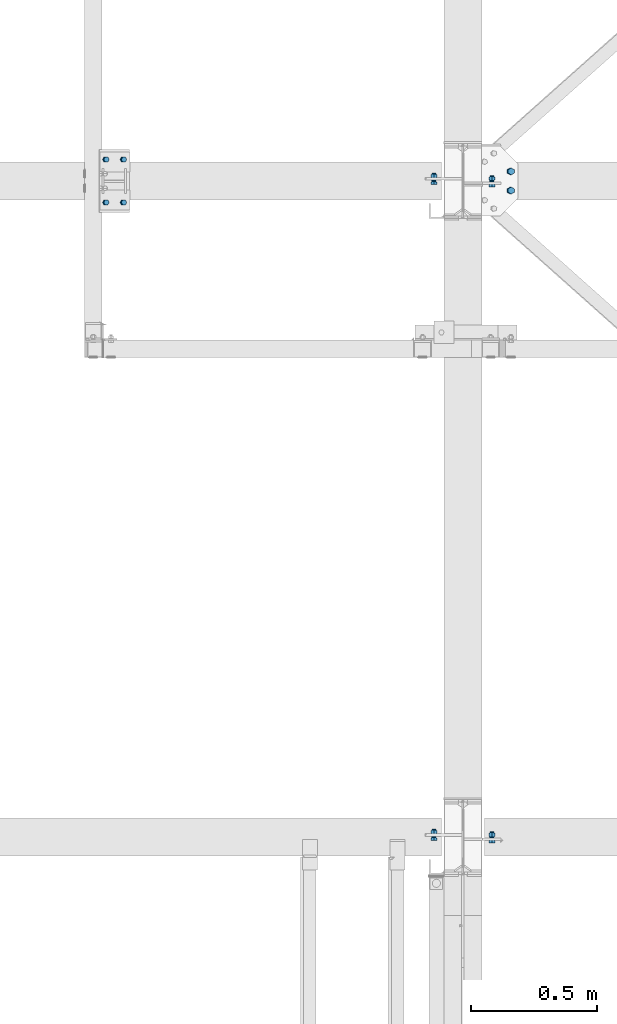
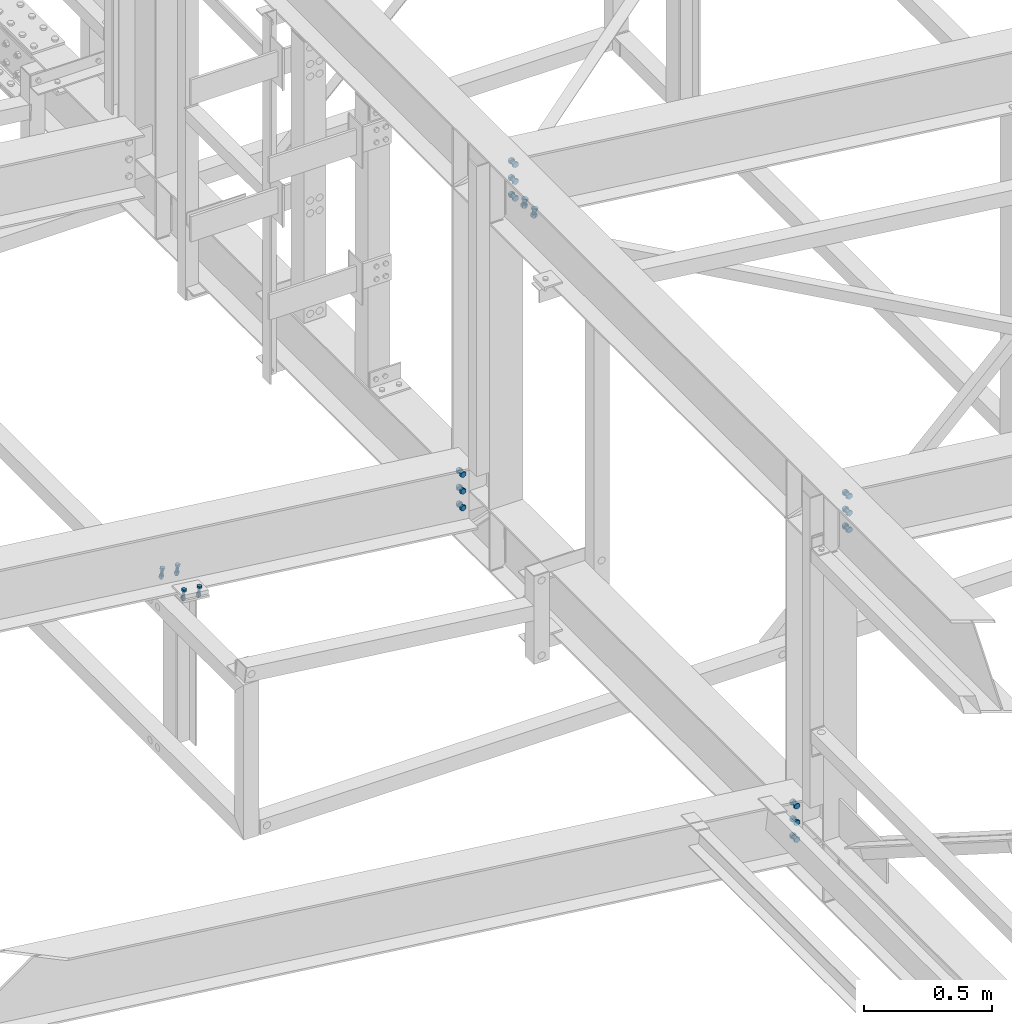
# One storey, part 155 of 3134: 7 mechanical fasteners, 5 elements without a shape of their own.
"""IFC2X3 building model written with IfcOpenShell, lengths in millimetres."""

from ifc_helpers import new_model, si_unit, frame, origin_with_axes, place, context, subcontext, project, spatial, faceted_brep, source, transform, mapped, material, type_object, element, aggregate, save


model = new_model("IFC2X3")

# Units and contexts
model_context = context("Model", 3, precision=1e-05, world=origin_with_axes())
body_context = subcontext(model_context, "Body", "Model", "MODEL_VIEW")
ifc_project = project(units=[si_unit("LENGTHUNIT", "METRE", prefix="MILLI"), si_unit("AREAUNIT", "SQUARE_METRE"), si_unit("VOLUMEUNIT", "CUBIC_METRE"), si_unit("MASSUNIT", "GRAM", prefix="KILO"), si_unit("TIMEUNIT", "SECOND"), si_unit("PLANEANGLEUNIT", "RADIAN"), si_unit("SOLIDANGLEUNIT", "STERADIAN"), si_unit("THERMODYNAMICTEMPERATUREUNIT", "DEGREE_CELSIUS"), si_unit("LUMINOUSINTENSITYUNIT", "LUMEN")], contexts=[model_context])

# Site, building, storey
site_placement = place(None, origin_with_axes())
site = spatial("IfcSite", under=ifc_project, at=site_placement, CompositionType="ELEMENT")
building_placement = place(site_placement, origin_with_axes())
building = spatial("IfcBuilding", under=site, at=building_placement, Name="Undefined", CompositionType="ELEMENT")
storey_placement = place(building_placement, origin_with_axes())
storey = spatial("IfcBuildingStorey", under=building, at=storey_placement, Name="Undefined", CompositionType="ELEMENT", Elevation=0.0)

# Assembly, mechanical fasteners
assembly_1_placement = place(storey_placement, origin_with_axes())
assembly_1 = element("IfcElementAssembly", 1, at=assembly_1_placement, inside=storey, Name="HEA100", AssemblyPlace="NOTDEFINED", PredefinedType="RIGID_FRAME")
ifc_material = material(Name="8.8")
mechanical_fastener_type = type_object("IfcMechanicalFastenerType", Name="Bolt assembly")
shared_shape_1 = source(origin_with_axes(), body_context, "Body", "Brep", [
    faceted_brep([(10.9696551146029, -36.0009821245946, 0.0), (5.48482755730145, -36.0009821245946, 9.5), (-5.48482755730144, -36.0009821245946, 9.5), (-10.9696551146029, -36.0009821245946, 1.34339530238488e-15), (-5.48482755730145, -36.0009821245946, -9.5), (5.48482755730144, -36.0009821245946, -9.50000000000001), (5.48482755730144, -28.0009821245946, -9.50000000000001), (-5.48482755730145, -28.0009821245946, -9.5), (-10.9696551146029, -28.0009821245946, 1.34339530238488e-15), (-5.48482755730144, -28.0009821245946, 9.5), (5.48482755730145, -28.0009821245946, 9.5), (10.9696551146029, -28.0009821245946, 0.0), (6.0, -28.0009821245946, 0.0), (5.19615242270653, -28.0009821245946, 3.00000000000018), (2.99999999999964, -28.0009821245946, 5.19615242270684), (-6.21801588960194e-13, -28.0009821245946, 6.0), (-3.00000000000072, -28.0009821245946, 5.19615242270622), (-5.19615242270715, -28.0009821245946, 2.9999999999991), (-6.0, -28.0009821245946, -1.24360317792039e-12), (-5.19615242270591, -28.0009821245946, -3.00000000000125), (-2.99999999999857, -28.0009821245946, -5.19615242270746), (1.85874342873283e-12, -28.0009821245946, -6.0), (3.00000000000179, -28.0009821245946, -5.1961524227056), (5.19615242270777, -28.0009821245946, -2.99999999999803), (5.19615242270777, 16.9990178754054, -2.99999999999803), (3.00000000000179, 16.9990178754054, -5.1961524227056), (1.85874342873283e-12, 16.9990178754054, -6.0), (-2.99999999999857, 16.9990178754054, -5.19615242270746), (-5.19615242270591, 16.9990178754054, -3.00000000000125), (-6.0, 16.9990178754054, -1.24360317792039e-12), (-5.19615242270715, 16.9990178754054, 2.9999999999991), (-3.00000000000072, 16.9990178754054, 5.19615242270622), (-6.21801588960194e-13, 16.9990178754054, 6.0), (2.99999999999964, 16.9990178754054, 5.19615242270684), (5.19615242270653, 16.9990178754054, 3.00000000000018), (6.0, 16.9990178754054, 0.0), (10.9696551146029, -0.000982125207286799, 0.0), (5.48482755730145, -0.000982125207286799, 9.5), (-5.48482755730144, -0.000982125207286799, 9.5), (-10.9696551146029, -0.000982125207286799, 1.34339530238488e-15), (-5.48482755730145, -0.000982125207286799, -9.5), (5.48482755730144, -0.000982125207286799, -9.50000000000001), (5.48482755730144, 9.99901787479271, -9.50000000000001), (-5.48482755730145, 9.99901787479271, -9.5), (-10.9696551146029, 9.99901787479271, 1.34339530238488e-15), (-5.48482755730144, 9.99901787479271, 9.5), (5.48482755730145, 9.99901787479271, 9.5), (10.9696551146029, 9.99901787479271, 0.0)], [[[0, 1, 2, 3, 4, 5]], [[6, 7, 8, 9, 10, 11]], [[0, 11, 10, 1]], [[1, 10, 9, 2]], [[2, 9, 8, 3]], [[3, 8, 7, 4]], [[4, 7, 6, 5]], [[5, 6, 11, 0]], [[12, 13, 14, 15, 16, 17, 18, 19, 20, 21, 22, 23]], [[24, 25, 26, 27, 28, 29, 30, 31, 32, 33, 34, 35]], [[12, 35, 34, 13]], [[13, 34, 33, 14]], [[14, 33, 32, 15]], [[15, 32, 31, 16]], [[16, 31, 30, 17]], [[17, 30, 29, 18]], [[18, 29, 28, 19]], [[19, 28, 27, 20]], [[20, 27, 26, 21]], [[21, 26, 25, 22]], [[22, 25, 24, 23]], [[23, 24, 35, 12]], [[36, 37, 38, 39, 40, 41]], [[42, 43, 44, 45, 46, 47]], [[36, 47, 46, 37]], [[37, 46, 45, 38]], [[38, 45, 44, 39]], [[39, 44, 43, 40]], [[40, 43, 42, 41]], [[41, 42, 47, 36]]]),
    faceted_brep([(7.0, -27.9009821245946, 0.0), (6.06217782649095, -27.9009821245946, 3.50000000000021), (3.49999999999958, -27.9009821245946, 6.06217782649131), (-7.25435187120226e-13, -27.9009821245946, 7.0), (-3.50000000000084, -27.9009821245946, 6.06217782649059), (-6.06217782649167, -27.9009821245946, 3.49999999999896), (-7.0, -27.9009821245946, -1.45087037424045e-12), (-6.06217782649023, -27.9009821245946, -3.50000000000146), (-3.49999999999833, -27.9009821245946, -6.06217782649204), (2.1685340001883e-12, -27.9009821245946, -7.0), (3.50000000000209, -27.9009821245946, -6.06217782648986), (6.0621778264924, -27.9009821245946, -3.4999999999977), (6.0621778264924, -19.9009821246, -3.4999999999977), (3.50000000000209, -19.9009821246, -6.06217782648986), (2.1685340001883e-12, -19.9009821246, -7.0), (-3.49999999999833, -19.9009821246, -6.06217782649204), (-6.06217782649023, -19.9009821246, -3.50000000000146), (-7.0, -19.9009821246, -1.45087037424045e-12), (-6.06217782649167, -19.9009821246, 3.49999999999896), (-3.50000000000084, -19.9009821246, 6.06217782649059), (-7.25435187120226e-13, -19.9009821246, 7.0), (3.49999999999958, -19.9009821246, 6.06217782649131), (6.06217782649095, -19.9009821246, 3.50000000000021), (7.0, -19.9009821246, 0.0), (7.0, -10.1009821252, 0.0), (6.06217782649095, -10.1009821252, 3.50000000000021), (3.49999999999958, -10.1009821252, 6.06217782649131), (-7.25435187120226e-13, -10.1009821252, 7.0), (-3.50000000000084, -10.1009821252, 6.06217782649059), (-6.06217782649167, -10.1009821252, 3.49999999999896), (-7.0, -10.1009821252, -1.45087037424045e-12), (-6.06217782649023, -10.1009821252, -3.50000000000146), (-3.49999999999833, -10.1009821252, -6.06217782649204), (2.1685340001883e-12, -10.1009821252, -7.0), (3.50000000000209, -10.1009821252, -6.06217782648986), (6.0621778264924, -10.1009821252, -3.4999999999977), (6.0621778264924, -0.000982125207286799, -3.4999999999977), (3.50000000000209, -0.000982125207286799, -6.06217782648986), (2.1685340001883e-12, -0.000982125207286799, -7.0), (-3.49999999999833, -0.000982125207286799, -6.06217782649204), (-6.06217782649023, -0.000982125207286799, -3.50000000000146), (-7.0, -0.000982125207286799, -1.45087037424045e-12), (-6.06217782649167, -0.000982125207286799, 3.49999999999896), (-3.50000000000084, -0.000982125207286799, 6.06217782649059), (-7.25435187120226e-13, -0.000982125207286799, 7.0), (3.49999999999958, -0.000982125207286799, 6.06217782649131), (6.06217782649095, -0.000982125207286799, 3.50000000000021), (7.0, -0.000982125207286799, 0.0)], [[[0, 1, 2, 3, 4, 5, 6, 7, 8, 9, 10, 11]], [[12, 13, 14, 15, 16, 17, 18, 19, 20, 21, 22, 23]], [[0, 23, 22, 1]], [[1, 22, 21, 2]], [[2, 21, 20, 3]], [[3, 20, 19, 4]], [[4, 19, 18, 5]], [[5, 18, 17, 6]], [[6, 17, 16, 7]], [[7, 16, 15, 8]], [[8, 15, 14, 9]], [[9, 14, 13, 10]], [[10, 13, 12, 11]], [[11, 12, 23, 0]], [[24, 25, 26, 27, 28, 29, 30, 31, 32, 33, 34, 35]], [[36, 37, 38, 39, 40, 41, 42, 43, 44, 45, 46, 47]], [[24, 47, 46, 25]], [[25, 46, 45, 26]], [[26, 45, 44, 27]], [[27, 44, 43, 28]], [[28, 43, 42, 29]], [[29, 42, 41, 30]], [[30, 41, 40, 31]], [[31, 40, 39, 32]], [[32, 39, 38, 33]], [[33, 38, 37, 34]], [[34, 37, 36, 35]], [[35, 36, 47, 24]]]),
])
mechanical_fastener_1_placement = place(assembly_1_placement, frame((54458.2532611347, 24735.0, 4256.76085935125), z_axis=(0.0, 1.0, 0.0), x_axis=(0.992623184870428, 0.0, -0.121240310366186)))
mechanical_fastener_1 = element("IfcMechanicalFastener", 2, at=mechanical_fastener_1_placement, type_object=mechanical_fastener_type, material=ifc_material, Name="Bolt assembly", NominalDiameter=12.0, NominalLength=45.0, context=body_context, shape_type="MappedRepresentation", body=[
    mapped(shared_shape_1, transform((0.0, 0.0, 0.0))),
    mapped(shared_shape_1, transform((70.0000000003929, -2.94676283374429e-10, 0.0))),
])
mechanical_fastener_2_placement = place(assembly_1_placement, frame((54458.2532611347, 24565.0, 4256.76085935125), z_axis=(0.0, 1.0, 0.0), x_axis=(0.992623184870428, 0.0, -0.121240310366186)))
mechanical_fastener_2 = element("IfcMechanicalFastener", 3, at=mechanical_fastener_2_placement, type_object=mechanical_fastener_type, material=ifc_material, Name="Bolt assembly", NominalDiameter=12.0, NominalLength=45.0, context=body_context, shape_type="MappedRepresentation", body=[
    mapped(shared_shape_1, transform((0.0, 0.0, 0.0))),
    mapped(shared_shape_1, transform((70.0000000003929, -2.94676283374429e-10, 0.0))),
])
aggregate(assembly_1, [mechanical_fastener_1, mechanical_fastener_2])

# Assembly, mechanical fastener
assembly_2_placement = place(storey_placement, origin_with_axes())
assembly_2 = element("IfcElementAssembly", 4, at=assembly_2_placement, inside=storey, Name="300", AssemblyPlace="NOTDEFINED", PredefinedType="RIGID_FRAME")
shared_shape_2 = source(origin_with_axes(), body_context, "Body", "Brep", [
    faceted_brep([(13.856406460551, -19.199990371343, 0.0), (6.92820323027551, -19.199990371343, 12.0), (-6.92820323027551, -19.199990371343, 12.0), (-13.856406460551, -19.199990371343, 1.69692038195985e-15), (-6.92820323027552, -19.199990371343, -12.0), (6.9282032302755, -19.199990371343, -12.0), (6.9282032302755, -9.19999037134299, -12.0), (-6.92820323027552, -9.19999037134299, -12.0), (-13.856406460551, -9.19999037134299, 1.69692038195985e-15), (-6.92820323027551, -9.19999037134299, 12.0), (6.92820323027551, -9.19999037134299, 12.0), (13.856406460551, -9.19999037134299, 0.0), (8.0, -9.19999037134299, 0.0), (6.92820323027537, -9.19999037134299, 4.00000000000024), (3.99999999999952, -9.19999037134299, 6.92820323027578), (-8.29068785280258e-13, -9.19999037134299, 8.0), (-4.00000000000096, -9.19999037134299, 6.92820323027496), (-6.9282032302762, -9.19999037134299, 3.99999999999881), (-8.0, -9.19999037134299, -1.65813757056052e-12), (-6.92820323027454, -9.19999037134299, -4.00000000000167), (-3.99999999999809, -9.19999037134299, -6.92820323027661), (2.47832457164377e-12, -9.19999037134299, -8.0), (4.00000000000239, -9.19999037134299, -6.92820323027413), (6.92820323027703, -9.19999037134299, -3.99999999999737), (6.92820323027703, 25.800009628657, -3.99999999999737), (4.00000000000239, 25.800009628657, -6.92820323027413), (2.47832457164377e-12, 25.800009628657, -8.0), (-3.99999999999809, 25.800009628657, -6.92820323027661), (-6.92820323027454, 25.800009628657, -4.00000000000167), (-8.0, 25.800009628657, -1.65813757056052e-12), (-6.9282032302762, 25.800009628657, 3.99999999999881), (-4.00000000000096, 25.800009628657, 6.92820323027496), (-8.29068785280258e-13, 25.800009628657, 8.0), (3.99999999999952, 25.800009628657, 6.92820323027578), (6.92820323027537, 25.800009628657, 4.00000000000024), (8.0, 25.800009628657, 0.0), (13.856406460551, 8.00000637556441, 0.0), (6.92820323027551, 8.00000637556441, 12.0), (-6.92820323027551, 8.00000637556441, 12.0), (-13.856406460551, 8.00000637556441, 1.69692038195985e-15), (-6.92820323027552, 8.00000637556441, -12.0), (6.9282032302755, 8.00000637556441, -12.0), (6.9282032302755, 21.0000063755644, -12.0), (-6.92820323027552, 21.0000063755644, -12.0), (-13.856406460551, 21.0000063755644, 1.69692038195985e-15), (-6.92820323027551, 21.0000063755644, 12.0), (6.92820323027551, 21.0000063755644, 12.0), (13.856406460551, 21.0000063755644, 0.0)], [[[0, 1, 2, 3, 4, 5]], [[6, 7, 8, 9, 10, 11]], [[0, 11, 10, 1]], [[1, 10, 9, 2]], [[2, 9, 8, 3]], [[3, 8, 7, 4]], [[4, 7, 6, 5]], [[5, 6, 11, 0]], [[12, 13, 14, 15, 16, 17, 18, 19, 20, 21, 22, 23]], [[24, 25, 26, 27, 28, 29, 30, 31, 32, 33, 34, 35]], [[12, 35, 34, 13]], [[13, 34, 33, 14]], [[14, 33, 32, 15]], [[15, 32, 31, 16]], [[16, 31, 30, 17]], [[17, 30, 29, 18]], [[18, 29, 28, 19]], [[19, 28, 27, 20]], [[20, 27, 26, 21]], [[21, 26, 25, 22]], [[22, 25, 24, 23]], [[23, 24, 35, 12]], [[36, 37, 38, 39, 40, 41]], [[42, 43, 44, 45, 46, 47]], [[36, 47, 46, 37]], [[37, 46, 45, 38]], [[38, 45, 44, 39]], [[39, 44, 43, 40]], [[40, 43, 42, 41]], [[41, 42, 47, 36]]]),
    faceted_brep([(9.0, -0.1, 0.0), (7.79422863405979, -0.1, 4.50000000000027), (4.49999999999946, -0.1, 7.79422863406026), (-9.3270238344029e-13, -0.1, 9.0), (-4.50000000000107, -0.1, 7.79422863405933), (-7.79422863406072, -0.1, 4.49999999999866), (-9.0, -0.1, -1.86540476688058e-12), (-7.79422863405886, -0.1, -4.50000000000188), (-4.49999999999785, -0.1, -7.79422863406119), (2.78811514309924e-12, -0.1, -9.0), (4.50000000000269, -0.1, -7.7942286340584), (7.79422863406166, -0.1, -4.49999999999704), (7.79422863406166, 8.00000000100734, -4.49999999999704), (4.50000000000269, 8.00000000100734, -7.7942286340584), (2.78811514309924e-12, 8.00000000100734, -9.0), (-4.49999999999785, 8.00000000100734, -7.79422863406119), (-7.79422863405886, 8.00000000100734, -4.50000000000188), (-9.0, 8.00000000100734, -1.86540476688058e-12), (-7.79422863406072, 8.00000000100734, 4.49999999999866), (-4.50000000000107, 8.00000000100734, 7.79422863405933), (-9.3270238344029e-13, 8.00000000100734, 9.0), (4.49999999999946, 8.00000000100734, 7.79422863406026), (7.79422863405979, 8.00000000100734, 4.50000000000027), (9.0, 8.00000000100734, 0.0), (9.0, -9.09999037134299, 0.0), (7.79422863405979, -9.09999037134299, 4.50000000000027), (4.49999999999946, -9.09999037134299, 7.79422863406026), (-9.3270238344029e-13, -9.09999037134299, 9.0), (-4.50000000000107, -9.09999037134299, 7.79422863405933), (-7.79422863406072, -9.09999037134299, 4.49999999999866), (-9.0, -9.09999037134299, -1.86540476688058e-12), (-7.79422863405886, -9.09999037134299, -4.50000000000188), (-4.49999999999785, -9.09999037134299, -7.79422863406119), (2.78811514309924e-12, -9.09999037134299, -9.0), (4.50000000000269, -9.09999037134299, -7.7942286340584), (7.79422863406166, -9.09999037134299, -4.49999999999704), (7.79422863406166, 0.100000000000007, -4.49999999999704), (4.50000000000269, 0.100000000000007, -7.7942286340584), (2.78811514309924e-12, 0.100000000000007, -9.0), (-4.49999999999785, 0.100000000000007, -7.79422863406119), (-7.79422863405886, 0.100000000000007, -4.50000000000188), (-9.0, 0.100000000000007, -1.86540476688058e-12), (-7.79422863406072, 0.100000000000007, 4.49999999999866), (-4.50000000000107, 0.100000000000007, 7.79422863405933), (-9.3270238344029e-13, 0.100000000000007, 9.0), (4.49999999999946, 0.100000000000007, 7.79422863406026), (7.79422863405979, 0.100000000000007, 4.50000000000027), (9.0, 0.100000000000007, 0.0)], [[[0, 1, 2, 3, 4, 5, 6, 7, 8, 9, 10, 11]], [[12, 13, 14, 15, 16, 17, 18, 19, 20, 21, 22, 23]], [[0, 23, 22, 1]], [[1, 22, 21, 2]], [[2, 21, 20, 3]], [[3, 20, 19, 4]], [[4, 19, 18, 5]], [[5, 18, 17, 6]], [[6, 17, 16, 7]], [[7, 16, 15, 8]], [[8, 15, 14, 9]], [[9, 14, 13, 10]], [[10, 13, 12, 11]], [[11, 12, 23, 0]], [[24, 25, 26, 27, 28, 29, 30, 31, 32, 33, 34, 35]], [[36, 37, 38, 39, 40, 41, 42, 43, 44, 45, 46, 47]], [[24, 47, 46, 25]], [[25, 46, 45, 26]], [[26, 45, 44, 27]], [[27, 44, 43, 28]], [[28, 43, 42, 29]], [[29, 42, 41, 30]], [[30, 41, 40, 31]], [[31, 40, 39, 32]], [[32, 39, 38, 33]], [[33, 38, 37, 34]], [[34, 37, 36, 35]], [[35, 36, 47, 24]]]),
])
mechanical_fastener_3_placement = place(assembly_2_placement, frame((56064.2248161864, 24687.9995130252, 5496.68063426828), z_axis=(0.992623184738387, 1.63108538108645e-05, -0.12124031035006), x_axis=(1.62000016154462e-05, -0.999999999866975, -1.90000018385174e-06)))
mechanical_fastener_3 = element("IfcMechanicalFastener", 5, at=mechanical_fastener_3_placement, type_object=mechanical_fastener_type, material=ifc_material, Name="Bolt assembly", NominalDiameter=16.0, NominalLength=35.0, context=body_context, shape_type="MappedRepresentation", body=[
    mapped(shared_shape_2, transform((0.0, 0.0, 0.0))),
    mapped(shared_shape_2, transform((76.0, 0.0, 0.0))),
])

assembly_3_placement = place(storey_placement, origin_with_axes())
assembly_3 = element("IfcElementAssembly", 6, at=assembly_3_placement, inside=storey, Name="300", AssemblyPlace="NOTDEFINED", PredefinedType="RIGID_FRAME")
shared_shape_3 = source(origin_with_axes(), body_context, "Body", "Brep", [
    faceted_brep([(13.856406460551, -13.0499999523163, 0.0), (6.92820323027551, -13.0499999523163, 12.0), (-6.92820323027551, -13.0499999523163, 12.0), (-13.856406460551, -13.0499999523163, 1.69692038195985e-15), (-6.92820323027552, -13.0499999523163, -12.0), (6.9282032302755, -13.0499999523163, -12.0), (6.9282032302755, -3.04999995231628, -12.0), (-6.92820323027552, -3.04999995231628, -12.0), (-13.856406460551, -3.04999995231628, 1.69692038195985e-15), (-6.92820323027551, -3.04999995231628, 12.0), (6.92820323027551, -3.04999995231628, 12.0), (13.856406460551, -3.04999995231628, 0.0), (8.0, -3.04999995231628, 0.0), (6.92820323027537, -3.04999995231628, 4.00000000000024), (3.99999999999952, -3.04999995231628, 6.92820323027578), (-8.29068785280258e-13, -3.04999995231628, 8.0), (-4.00000000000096, -3.04999995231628, 6.92820323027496), (-6.9282032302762, -3.04999995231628, 3.99999999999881), (-8.0, -3.04999995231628, -1.65813757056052e-12), (-6.92820323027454, -3.04999995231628, -4.00000000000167), (-3.99999999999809, -3.04999995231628, -6.92820323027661), (2.47832457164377e-12, -3.04999995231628, -8.0), (4.00000000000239, -3.04999995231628, -6.92820323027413), (6.92820323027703, -3.04999995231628, -3.99999999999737), (6.92820323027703, 31.9500000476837, -3.99999999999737), (4.00000000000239, 31.9500000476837, -6.92820323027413), (2.47832457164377e-12, 31.9500000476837, -8.0), (-3.99999999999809, 31.9500000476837, -6.92820323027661), (-6.92820323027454, 31.9500000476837, -4.00000000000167), (-8.0, 31.9500000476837, -1.65813757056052e-12), (-6.9282032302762, 31.9500000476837, 3.99999999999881), (-4.00000000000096, 31.9500000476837, 6.92820323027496), (-8.29068785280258e-13, 31.9500000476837, 8.0), (3.99999999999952, 31.9500000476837, 6.92820323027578), (6.92820323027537, 31.9500000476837, 4.00000000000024), (8.0, 31.9500000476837, 0.0), (13.856406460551, 13.0500000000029, 0.0), (6.92820323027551, 13.0500000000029, 12.0), (-6.92820323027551, 13.0500000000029, 12.0), (-13.856406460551, 13.0500000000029, 1.69692038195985e-15), (-6.92820323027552, 13.0500000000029, -12.0), (6.9282032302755, 13.0500000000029, -12.0), (6.9282032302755, 26.0500000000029, -12.0), (-6.92820323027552, 26.0500000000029, -12.0), (-13.856406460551, 26.0500000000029, 1.69692038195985e-15), (-6.92820323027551, 26.0500000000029, 12.0), (6.92820323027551, 26.0500000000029, 12.0), (13.856406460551, 26.0500000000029, 0.0)], [[[0, 1, 2, 3, 4, 5]], [[6, 7, 8, 9, 10, 11]], [[0, 11, 10, 1]], [[1, 10, 9, 2]], [[2, 9, 8, 3]], [[3, 8, 7, 4]], [[4, 7, 6, 5]], [[5, 6, 11, 0]], [[12, 13, 14, 15, 16, 17, 18, 19, 20, 21, 22, 23]], [[24, 25, 26, 27, 28, 29, 30, 31, 32, 33, 34, 35]], [[12, 35, 34, 13]], [[13, 34, 33, 14]], [[14, 33, 32, 15]], [[15, 32, 31, 16]], [[16, 31, 30, 17]], [[17, 30, 29, 18]], [[18, 29, 28, 19]], [[19, 28, 27, 20]], [[20, 27, 26, 21]], [[21, 26, 25, 22]], [[22, 25, 24, 23]], [[23, 24, 35, 12]], [[36, 37, 38, 39, 40, 41]], [[42, 43, 44, 45, 46, 47]], [[36, 47, 46, 37]], [[37, 46, 45, 38]], [[38, 45, 44, 39]], [[39, 44, 43, 40]], [[40, 43, 42, 41]], [[41, 42, 47, 36]]]),
    faceted_brep([(9.0, 2.95000000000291, 0.0), (7.79422863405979, 2.95000000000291, 4.50000000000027), (4.49999999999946, 2.95000000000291, 7.79422863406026), (-9.3270238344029e-13, 2.95000000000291, 9.0), (-4.50000000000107, 2.95000000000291, 7.79422863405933), (-7.79422863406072, 2.95000000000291, 4.49999999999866), (-9.0, 2.95000000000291, -1.86540476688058e-12), (-7.79422863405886, 2.95000000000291, -4.50000000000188), (-4.49999999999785, 2.95000000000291, -7.79422863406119), (2.78811514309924e-12, 2.95000000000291, -9.0), (4.50000000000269, 2.95000000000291, -7.7942286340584), (7.79422863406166, 2.95000000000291, -4.49999999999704), (7.79422863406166, 13.0500000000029, -4.49999999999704), (4.50000000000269, 13.0500000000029, -7.7942286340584), (2.78811514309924e-12, 13.0500000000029, -9.0), (-4.49999999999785, 13.0500000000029, -7.79422863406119), (-7.79422863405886, 13.0500000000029, -4.50000000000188), (-9.0, 13.0500000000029, -1.86540476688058e-12), (-7.79422863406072, 13.0500000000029, 4.49999999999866), (-4.50000000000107, 13.0500000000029, 7.79422863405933), (-9.3270238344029e-13, 13.0500000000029, 9.0), (4.49999999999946, 13.0500000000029, 7.79422863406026), (7.79422863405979, 13.0500000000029, 4.50000000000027), (9.0, 13.0500000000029, 0.0), (9.0, -2.94999995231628, 0.0), (7.79422863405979, -2.94999995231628, 4.50000000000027), (4.49999999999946, -2.94999995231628, 7.79422863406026), (-9.3270238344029e-13, -2.94999995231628, 9.0), (-4.50000000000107, -2.94999995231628, 7.79422863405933), (-7.79422863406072, -2.94999995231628, 4.49999999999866), (-9.0, -2.94999995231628, -1.86540476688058e-12), (-7.79422863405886, -2.94999995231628, -4.50000000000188), (-4.49999999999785, -2.94999995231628, -7.79422863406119), (2.78811514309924e-12, -2.94999995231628, -9.0), (4.50000000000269, -2.94999995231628, -7.7942286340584), (7.79422863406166, -2.94999995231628, -4.49999999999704), (7.79422863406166, 3.14999995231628, -4.49999999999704), (4.50000000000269, 3.14999995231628, -7.7942286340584), (2.78811514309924e-12, 3.14999995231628, -9.0), (-4.49999999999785, 3.14999995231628, -7.79422863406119), (-7.79422863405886, 3.14999995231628, -4.50000000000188), (-9.0, 3.14999995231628, -1.86540476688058e-12), (-7.79422863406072, 3.14999995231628, 4.49999999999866), (-4.50000000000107, 3.14999995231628, 7.79422863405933), (-9.3270238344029e-13, 3.14999995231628, 9.0), (4.49999999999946, 3.14999995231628, 7.79422863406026), (7.79422863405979, 3.14999995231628, 4.50000000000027), (9.0, 3.14999995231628, 0.0)], [[[0, 1, 2, 3, 4, 5, 6, 7, 8, 9, 10, 11]], [[12, 13, 14, 15, 16, 17, 18, 19, 20, 21, 22, 23]], [[0, 23, 22, 1]], [[1, 22, 21, 2]], [[2, 21, 20, 3]], [[3, 20, 19, 4]], [[4, 19, 18, 5]], [[5, 18, 17, 6]], [[6, 17, 16, 7]], [[7, 16, 15, 8]], [[8, 15, 14, 9]], [[9, 14, 13, 10]], [[10, 13, 12, 11]], [[11, 12, 23, 0]], [[24, 25, 26, 27, 28, 29, 30, 31, 32, 33, 34, 35]], [[36, 37, 38, 39, 40, 41, 42, 43, 44, 45, 46, 47]], [[24, 47, 46, 25]], [[25, 46, 45, 26]], [[26, 45, 44, 27]], [[27, 44, 43, 28]], [[28, 43, 42, 29]], [[29, 42, 41, 30]], [[30, 41, 40, 31]], [[31, 40, 39, 32]], [[32, 39, 38, 33]], [[33, 38, 37, 34]], [[34, 37, 36, 35]], [[35, 36, 47, 24]]]),
])
mechanical_fastener_4_placement = place(assembly_3_placement, frame((55760.0, 24650.0, 4337.44269270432), z_axis=(1.0, 0.0, 0.0), x_axis=(0.0, 0.0, -1.0)))
mechanical_fastener_4 = element("IfcMechanicalFastener", 7, at=mechanical_fastener_4_placement, type_object=mechanical_fastener_type, material=ifc_material, Name="Bolt assembly", NominalDiameter=16.0, NominalLength=35.0, context=body_context, shape_type="MappedRepresentation", body=[
    mapped(shared_shape_3, transform((0.0, 0.0, 0.0))),
    mapped(shared_shape_3, transform((80.0, 0.0, 0.0))),
    mapped(shared_shape_3, transform((160.0, 0.0, 0.0))),
])
aggregate(assembly_3, [mechanical_fastener_4])

assembly_4_placement = place(storey_placement, origin_with_axes())
assembly_4 = element("IfcElementAssembly", 8, at=assembly_4_placement, inside=storey, Name="300", AssemblyPlace="NOTDEFINED", PredefinedType="RIGID_FRAME")
mechanical_fastener_5_placement = place(assembly_4_placement, frame((55760.0, 22050.0, 4337.44269270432), z_axis=(1.0, 0.0, 0.0), x_axis=(0.0, 0.0, -1.0)))
mechanical_fastener_5 = element("IfcMechanicalFastener", 9, at=mechanical_fastener_5_placement, type_object=mechanical_fastener_type, material=ifc_material, Name="Bolt assembly", NominalDiameter=16.0, NominalLength=35.0, context=body_context, shape_type="MappedRepresentation", body=[
    mapped(shared_shape_3, transform((0.0, 0.0, 0.0))),
    mapped(shared_shape_3, transform((80.0, 0.0, 0.0))),
    mapped(shared_shape_3, transform((160.0, 0.0, 0.0))),
])
aggregate(assembly_4, [mechanical_fastener_5])

assembly_5_placement = place(storey_placement, origin_with_axes())
assembly_5 = element("IfcElementAssembly", 10, at=assembly_5_placement, inside=storey, Name="300", AssemblyPlace="NOTDEFINED", PredefinedType="RIGID_FRAME")
shared_shape_4 = source(origin_with_axes(), body_context, "Body", "Brep", [
    faceted_brep([(13.856406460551, -23.0499999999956, 0.0), (6.92820323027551, -23.0499999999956, 12.0), (-6.92820323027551, -23.0499999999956, 12.0), (-13.856406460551, -23.0499999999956, 1.69692038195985e-15), (-6.92820323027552, -23.0499999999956, -12.0), (6.9282032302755, -23.0499999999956, -12.0), (6.9282032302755, -13.0499999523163, -12.0), (-6.92820323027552, -13.0499999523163, -12.0), (-13.856406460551, -13.0499999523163, 1.69692038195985e-15), (-6.92820323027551, -13.0499999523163, 12.0), (6.92820323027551, -13.0499999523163, 12.0), (13.856406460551, -13.0499999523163, 0.0), (8.0, -13.0499999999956, 0.0), (6.92820323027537, -13.0499999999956, 4.00000000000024), (3.99999999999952, -13.0499999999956, 6.92820323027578), (-8.29068785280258e-13, -13.0499999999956, 8.0), (-4.00000000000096, -13.0499999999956, 6.92820323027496), (-6.9282032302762, -13.0499999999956, 3.99999999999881), (-8.0, -13.0499999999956, -1.65813757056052e-12), (-6.92820323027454, -13.0499999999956, -4.00000000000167), (-3.99999999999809, -13.0499999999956, -6.92820323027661), (2.47832457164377e-12, -13.0499999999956, -8.0), (4.00000000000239, -13.0499999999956, -6.92820323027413), (6.92820323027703, -13.0499999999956, -3.99999999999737), (6.92820323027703, 21.9500000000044, -3.99999999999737), (4.00000000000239, 21.9500000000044, -6.92820323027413), (2.47832457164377e-12, 21.9500000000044, -8.0), (-3.99999999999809, 21.9500000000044, -6.92820323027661), (-6.92820323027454, 21.9500000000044, -4.00000000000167), (-8.0, 21.9500000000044, -1.65813757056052e-12), (-6.9282032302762, 21.9500000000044, 3.99999999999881), (-4.00000000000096, 21.9500000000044, 6.92820323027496), (-8.29068785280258e-13, 21.9500000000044, 8.0), (3.99999999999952, 21.9500000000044, 6.92820323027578), (6.92820323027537, 21.9500000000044, 4.00000000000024), (8.0, 21.9500000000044, 0.0), (13.856406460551, 3.04999995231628, 0.0), (6.92820323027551, 3.04999995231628, 12.0), (-6.92820323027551, 3.04999995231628, 12.0), (-13.856406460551, 3.04999995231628, 1.69692038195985e-15), (-6.92820323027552, 3.04999995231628, -12.0), (6.9282032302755, 3.04999995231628, -12.0), (6.9282032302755, 16.0499999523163, -12.0), (-6.92820323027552, 16.0499999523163, -12.0), (-13.856406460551, 16.0499999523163, 1.69692038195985e-15), (-6.92820323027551, 16.0499999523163, 12.0), (6.92820323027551, 16.0499999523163, 12.0), (13.856406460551, 16.0499999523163, 0.0)], [[[0, 1, 2, 3, 4, 5]], [[6, 7, 8, 9, 10, 11]], [[0, 11, 10, 1]], [[1, 10, 9, 2]], [[2, 9, 8, 3]], [[3, 8, 7, 4]], [[4, 7, 6, 5]], [[5, 6, 11, 0]], [[12, 13, 14, 15, 16, 17, 18, 19, 20, 21, 22, 23]], [[24, 25, 26, 27, 28, 29, 30, 31, 32, 33, 34, 35]], [[12, 35, 34, 13]], [[13, 34, 33, 14]], [[14, 33, 32, 15]], [[15, 32, 31, 16]], [[16, 31, 30, 17]], [[17, 30, 29, 18]], [[18, 29, 28, 19]], [[19, 28, 27, 20]], [[20, 27, 26, 21]], [[21, 26, 25, 22]], [[22, 25, 24, 23]], [[23, 24, 35, 12]], [[36, 37, 38, 39, 40, 41]], [[42, 43, 44, 45, 46, 47]], [[36, 47, 46, 37]], [[37, 46, 45, 38]], [[38, 45, 44, 39]], [[39, 44, 43, 40]], [[40, 43, 42, 41]], [[41, 42, 47, 36]]]),
    faceted_brep([(9.0, -12.9499999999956, 0.0), (7.79422863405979, -12.9499999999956, 4.50000000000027), (4.49999999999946, -12.9499999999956, 7.79422863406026), (-9.3270238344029e-13, -12.9499999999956, 9.0), (-4.50000000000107, -12.9499999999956, 7.79422863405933), (-7.79422863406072, -12.9499999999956, 4.49999999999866), (-9.0, -12.9499999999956, -1.86540476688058e-12), (-7.79422863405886, -12.9499999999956, -4.50000000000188), (-4.49999999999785, -12.9499999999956, -7.79422863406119), (2.78811514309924e-12, -12.9499999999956, -9.0), (4.50000000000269, -12.9499999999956, -7.7942286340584), (7.79422863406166, -12.9499999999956, -4.49999999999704), (7.79422863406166, -2.94999995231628, -4.49999999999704), (4.50000000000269, -2.94999995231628, -7.7942286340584), (2.78811514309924e-12, -2.94999995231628, -9.0), (-4.49999999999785, -2.94999995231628, -7.79422863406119), (-7.79422863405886, -2.94999995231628, -4.50000000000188), (-9.0, -2.94999995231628, -1.86540476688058e-12), (-7.79422863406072, -2.94999995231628, 4.49999999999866), (-4.50000000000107, -2.94999995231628, 7.79422863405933), (-9.3270238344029e-13, -2.94999995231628, 9.0), (4.49999999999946, -2.94999995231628, 7.79422863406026), (7.79422863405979, -2.94999995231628, 4.50000000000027), (9.0, -2.94999995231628, 0.0), (9.0, -3.14999995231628, 0.0), (7.79422863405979, -3.14999995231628, 4.50000000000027), (4.49999999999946, -3.14999995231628, 7.79422863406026), (-9.3270238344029e-13, -3.14999995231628, 9.0), (-4.50000000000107, -3.14999995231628, 7.79422863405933), (-7.79422863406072, -3.14999995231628, 4.49999999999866), (-9.0, -3.14999995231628, -1.86540476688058e-12), (-7.79422863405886, -3.14999995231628, -4.50000000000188), (-4.49999999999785, -3.14999995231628, -7.79422863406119), (2.78811514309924e-12, -3.14999995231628, -9.0), (4.50000000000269, -3.14999995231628, -7.7942286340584), (7.79422863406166, -3.14999995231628, -4.49999999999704), (7.79422863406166, 3.04999995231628, -4.49999999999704), (4.50000000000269, 3.04999995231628, -7.7942286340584), (2.78811514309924e-12, 3.04999995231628, -9.0), (-4.49999999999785, 3.04999995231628, -7.79422863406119), (-7.79422863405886, 3.04999995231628, -4.50000000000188), (-9.0, 3.04999995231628, -1.86540476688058e-12), (-7.79422863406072, 3.04999995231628, 4.49999999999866), (-4.50000000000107, 3.04999995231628, 7.79422863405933), (-9.3270238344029e-13, 3.04999995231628, 9.0), (4.49999999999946, 3.04999995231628, 7.79422863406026), (7.79422863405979, 3.04999995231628, 4.50000000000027), (9.0, 3.04999995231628, 0.0)], [[[0, 1, 2, 3, 4, 5, 6, 7, 8, 9, 10, 11]], [[12, 13, 14, 15, 16, 17, 18, 19, 20, 21, 22, 23]], [[0, 23, 22, 1]], [[1, 22, 21, 2]], [[2, 21, 20, 3]], [[3, 20, 19, 4]], [[4, 19, 18, 5]], [[5, 18, 17, 6]], [[6, 17, 16, 7]], [[7, 16, 15, 8]], [[8, 15, 14, 9]], [[9, 14, 13, 10]], [[10, 13, 12, 11]], [[11, 12, 23, 0]], [[24, 25, 26, 27, 28, 29, 30, 31, 32, 33, 34, 35]], [[36, 37, 38, 39, 40, 41, 42, 43, 44, 45, 46, 47]], [[24, 47, 46, 25]], [[25, 46, 45, 26]], [[26, 45, 44, 27]], [[27, 44, 43, 28]], [[28, 43, 42, 29]], [[29, 42, 41, 30]], [[30, 41, 40, 31]], [[31, 40, 39, 32]], [[32, 39, 38, 33]], [[33, 38, 37, 34]], [[34, 37, 36, 35]], [[35, 36, 47, 24]]]),
])
mechanical_fastener_6_placement = place(assembly_5_placement, frame((55990.0, 22050.0, 5735.35014950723), z_axis=(1.0, 0.0, 0.0), x_axis=(0.0, 0.0, -1.0)))
mechanical_fastener_6 = element("IfcMechanicalFastener", 11, at=mechanical_fastener_6_placement, type_object=mechanical_fastener_type, material=ifc_material, Name="Bolt assembly", NominalDiameter=16.0, NominalLength=35.0, context=body_context, shape_type="MappedRepresentation", body=[
    mapped(shared_shape_4, transform((0.0, 0.0, 0.0))),
    mapped(shared_shape_4, transform((80.0, 0.0, 0.0))),
    mapped(shared_shape_4, transform((160.0, 0.0, 0.0))),
])
aggregate(assembly_5, [mechanical_fastener_6])

# Mechanical fastener
mechanical_fastener_7_placement = place(assembly_2_placement, frame((55990.0, 24650.0, 5735.35014950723), z_axis=(1.0, 0.0, 0.0), x_axis=(0.0, 0.0, -1.0)))
mechanical_fastener_7 = element("IfcMechanicalFastener", 12, at=mechanical_fastener_7_placement, type_object=mechanical_fastener_type, material=ifc_material, Name="Bolt assembly", NominalDiameter=16.0, NominalLength=35.0, context=body_context, shape_type="MappedRepresentation", body=[
    mapped(shared_shape_4, transform((0.0, 0.0, 0.0))),
    mapped(shared_shape_4, transform((80.0, 0.0, 0.0))),
    mapped(shared_shape_4, transform((160.0, 0.0, 0.0))),
])

aggregate(assembly_2, [mechanical_fastener_3, mechanical_fastener_7])

save(model, "model.ifc")
